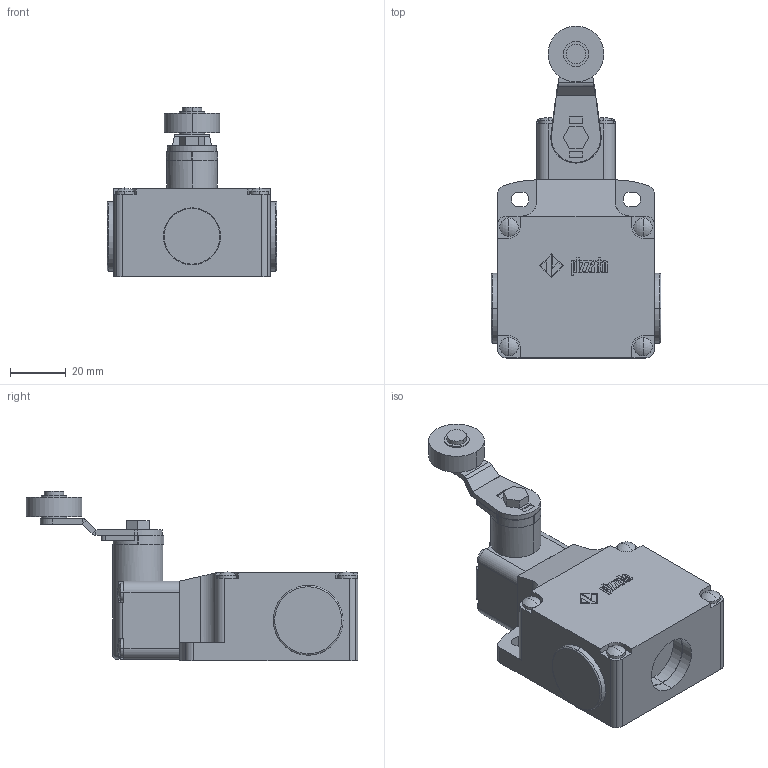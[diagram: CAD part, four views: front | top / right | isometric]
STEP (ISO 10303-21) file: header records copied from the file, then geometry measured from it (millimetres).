
FILE_DESCRIPTION (( 'STEP AP214' ), '1' );
FILE_NAME ('ZF_STEP_FL_x31_A10.step', '2014-04-10T09:05:00', ( 'utente' ), ( 'Microsoft' ), 'SwSTEP 2.0', 'SolidWorks 2013', '' );
FILE_SCHEMA (( 'AUTOMOTIVE_DESIGN' ));
Length unit declared in the file: millimetre
Products named in the file (9): Pizzato_Tappo_Protezione_PG13_M20_PG13; Pizzato_Custodia_FL; ZF_STEP_FL_x31_A10; ZF_STEP_VF_T31_A10; ZF_STEP_VF_L31_A10; Vite_leve_pesanti; Pizzato_L31; Pizzato_supporto-leva_serie_pesanti_262; ZF_STEP_VF_T38_A10_Lung Vite 2mm
Assembly tree (9 placements, depth 4):
  ZF_STEP_FL_x31_A10
    Pizzato_Custodia_FL
    Pizzato_Tappo_Protezione_PG13_M20_PG13  x2
    ZF_STEP_VF_T31_A10
      ZF_STEP_VF_T38_A10_Lung Vite 2mm
      ZF_STEP_VF_L31_A10
        Pizzato_supporto-leva_serie_pesanti_262
        Pizzato_L31
        Vite_leve_pesanti
Bounding box: 60.8 x 118.82 x 60.73 mm (x, y, z)
Volume: 124789.4 mm3; surface area: 29797.6 mm2
Topology: 7 solids, 7 shells, 859 faces, 2330 edges, 1543 vertices
Faces by surface type: plane 460, cylinder 300, bspline 77, sphere 16, torus 6
Entity records: 30703 total; most frequent: CARTESIAN_POINT 8796, ORIENTED_EDGE 4628, DIRECTION 4343, EDGE_CURVE 2314, VERTEX_POINT 1533, VECTOR 1523, LINE 1523, AXIS2_PLACEMENT_3D 1410
